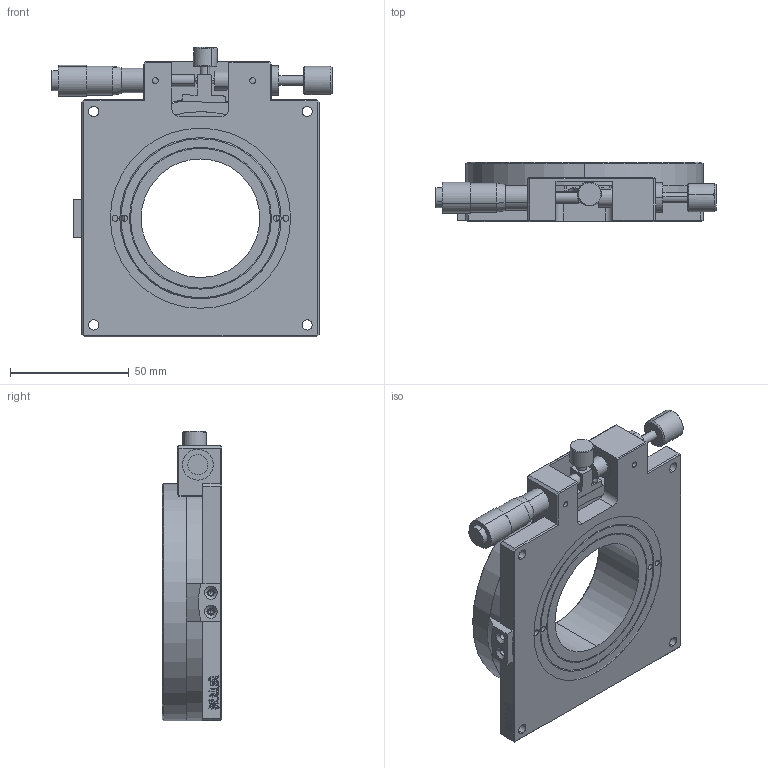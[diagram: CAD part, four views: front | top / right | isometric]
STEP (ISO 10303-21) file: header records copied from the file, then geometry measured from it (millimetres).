
FILE_DESCRIPTION (( 'STEP AP214' ), '1' );
FILE_NAME ('PT-SR100.STEP', '2023-05-07T08:22:48', ( '' ), ( '' ), 'SwSTEP 2.0', 'SolidWorks 2017', '' );
FILE_SCHEMA (( 'AUTOMOTIVE_DESIGN' ));
Length unit declared in the file: millimetre
Products named in the file (2): PT-SR100
Bounding box: 118.07 x 25 x 122.11 mm (x, y, z)
Volume: 157985.5 mm3; surface area: 75092.2 mm2
Topology: 15 solids, 15 shells, 526 faces, 1360 edges, 868 vertices
Faces by surface type: plane 231, cylinder 169, bspline 83, cone 43
Entity records: 25548 total; most frequent: CARTESIAN_POINT 6952, ORIENTED_EDGE 2672, DIRECTION 2460, EDGE_CURVE 1336, AXIS2_PLACEMENT_3D 870, VERTEX_POINT 868, LINE 720, VECTOR 720
